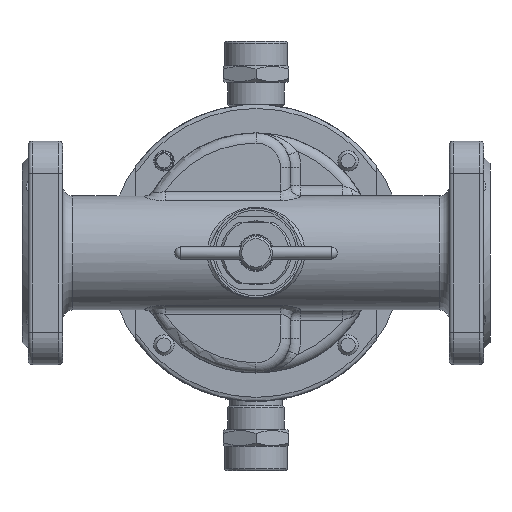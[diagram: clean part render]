
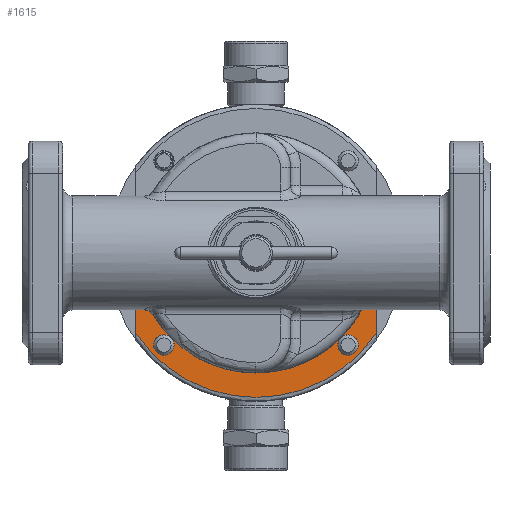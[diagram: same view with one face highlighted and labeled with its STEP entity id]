
A CAD part, front view. The second image highlights one B-rep face of the part: STEP entity #1615.
In plain terms, the highlighted planar face has unit normal (0, -1, 0).
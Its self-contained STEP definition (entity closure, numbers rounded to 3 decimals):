
#1615=ADVANCED_FACE('',(#17259),#17261,.F.);
#17259=FACE_OUTER_BOUND('',#17260,.T.);
#17260=EDGE_LOOP('',(#29645,#29646,#29647,#29648,#29649,#29650,#29651,#29652,#29653,
#29654));
#17261=PLANE('',#17262);
#17262=AXIS2_PLACEMENT_3D('',#17263,#17264,#17265);
#17263=CARTESIAN_POINT('',(0.,39.5,0.));
#17264=DIRECTION('',(0.,1.,0.));
#17265=DIRECTION('',(-1.,0.,0.));
#29645=ORIENTED_EDGE('',*,*,#37027,.F.);
#29646=ORIENTED_EDGE('',*,*,#37028,.F.);
#29647=ORIENTED_EDGE('',*,*,#37029,.F.);
#29648=ORIENTED_EDGE('',*,*,#36970,.F.);
#29649=ORIENTED_EDGE('',*,*,#37030,.F.);
#29650=ORIENTED_EDGE('',*,*,#36964,.F.);
#29651=ORIENTED_EDGE('',*,*,#37031,.F.);
#29652=ORIENTED_EDGE('',*,*,#37032,.F.);
#29653=ORIENTED_EDGE('',*,*,#37033,.F.);
#29654=ORIENTED_EDGE('',*,*,#37034,.F.);
#36964=EDGE_CURVE('',#44643,#44645,#44646,.T.);
#36970=EDGE_CURVE('',#44653,#44655,#44656,.T.);
#37027=EDGE_CURVE('',#44751,#44752,#44753,.T.);
#37028=EDGE_CURVE('',#44752,#44751,#44754,.T.);
#37029=EDGE_CURVE('',#44655,#44752,#44755,.T.);
#37030=EDGE_CURVE('',#44645,#44653,#44756,.T.);
#37031=EDGE_CURVE('',#44757,#44643,#44758,.T.);
#37032=EDGE_CURVE('',#44759,#44757,#44760,.T.);
#37033=EDGE_CURVE('',#44757,#44759,#44761,.T.);
#37034=EDGE_CURVE('',#44752,#44757,#44762,.T.);
#44643=VERTEX_POINT('',#68155);
#44645=VERTEX_POINT('',#68159);
#44646=LINE('',#68160,#68161);
#44653=VERTEX_POINT('',#68230);
#44655=VERTEX_POINT('',#68286);
#44656=LINE('',#68287,#68288);
#44751=VERTEX_POINT('',#69227);
#44752=VERTEX_POINT('',#69228);
#44753=CIRCLE('',#69229,5.);
#44754=CIRCLE('',#69233,5.);
#44755=CIRCLE('',#69237,59.);
#44756=CIRCLE('',#69241,71.);
#44757=VERTEX_POINT('',#69245);
#44758=CIRCLE('',#69246,59.);
#44759=VERTEX_POINT('',#69250);
#44760=CIRCLE('',#69251,5.);
#44761=CIRCLE('',#69255,5.);
#44762=CIRCLE('',#69259,59.);
#68155=CARTESIAN_POINT('',(59.,39.5,0.));
#68159=CARTESIAN_POINT('',(59.,39.5,-39.497));
#68160=CARTESIAN_POINT('',(59.,39.5,0.));
#68161=VECTOR('',#68162,1.);
#68162=DIRECTION('',(0.,0.,-1.));
#68230=CARTESIAN_POINT('',(-59.,39.5,-39.497));
#68286=CARTESIAN_POINT('',(-59.,39.5,0.));
#68287=CARTESIAN_POINT('',(-59.,39.5,-39.497));
#68288=VECTOR('',#68289,1.);
#68289=DIRECTION('',(0.,0.,1.));
#69227=CARTESIAN_POINT('',(-45.255,39.5,-50.255));
#69228=CARTESIAN_POINT('',(-41.719,39.5,-41.719));
#69229=AXIS2_PLACEMENT_3D('',#69230,#69231,#69232);
#69230=CARTESIAN_POINT('',(-45.255,39.5,-45.255));
#69231=DIRECTION('',(0.,-1.,0.));
#69232=DIRECTION('',(0.,0.,-1.));
#69233=AXIS2_PLACEMENT_3D('',#69234,#69235,#69236);
#69234=CARTESIAN_POINT('',(-45.255,39.5,-45.255));
#69235=DIRECTION('',(0.,-1.,0.));
#69236=DIRECTION('',(0.707,0.,0.707));
#69237=AXIS2_PLACEMENT_3D('',#69238,#69239,#69240);
#69238=CARTESIAN_POINT('',(0.,39.5,0.));
#69239=DIRECTION('',(0.,-1.,0.));
#69240=DIRECTION('',(-1.,0.,0.));
#69241=AXIS2_PLACEMENT_3D('',#69242,#69243,#69244);
#69242=CARTESIAN_POINT('',(0.,39.5,0.));
#69243=DIRECTION('',(0.,1.,0.));
#69244=DIRECTION('',(0.831,0.,-0.556));
#69245=CARTESIAN_POINT('',(41.719,39.5,-41.719));
#69246=AXIS2_PLACEMENT_3D('',#69247,#69248,#69249);
#69247=CARTESIAN_POINT('',(0.,39.5,0.));
#69248=DIRECTION('',(0.,-1.,0.));
#69249=DIRECTION('',(0.707,0.,-0.707));
#69250=CARTESIAN_POINT('',(50.255,39.5,-45.255));
#69251=AXIS2_PLACEMENT_3D('',#69252,#69253,#69254);
#69252=CARTESIAN_POINT('',(45.255,39.5,-45.255));
#69253=DIRECTION('',(0.,-1.,0.));
#69254=DIRECTION('',(1.,0.,0.));
#69255=AXIS2_PLACEMENT_3D('',#69256,#69257,#69258);
#69256=CARTESIAN_POINT('',(45.255,39.5,-45.255));
#69257=DIRECTION('',(0.,-1.,0.));
#69258=DIRECTION('',(-0.707,0.,0.707));
#69259=AXIS2_PLACEMENT_3D('',#69260,#69261,#69262);
#69260=CARTESIAN_POINT('',(0.,39.5,0.));
#69261=DIRECTION('',(0.,-1.,0.));
#69262=DIRECTION('',(-0.707,0.,-0.707));
